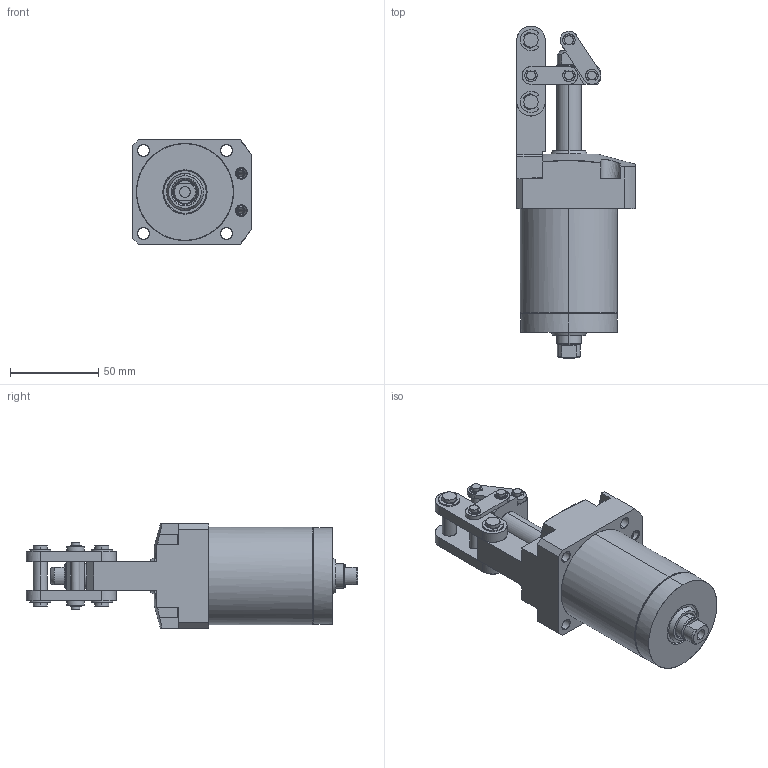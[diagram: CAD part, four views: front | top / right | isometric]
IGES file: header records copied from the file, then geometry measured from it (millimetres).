
Start section: Comment
Global section: file name: JLF5H34-38GD.igs; native system:  By Spatial Corp.; preprocessor: XPlus GENERIC/IGES 3.0; author: Author; organization: Title; date: 20080526.113854; units: millimetre
Bounding box: 67 x 187.99 x 59 mm (x, y, z)
Surface area: 67125.4 mm2 (no closed solid volume)
Topology: 0 solids, 0 shells, 623 faces, 3218 edges, 3208 vertices
Faces by surface type: bspline 623
